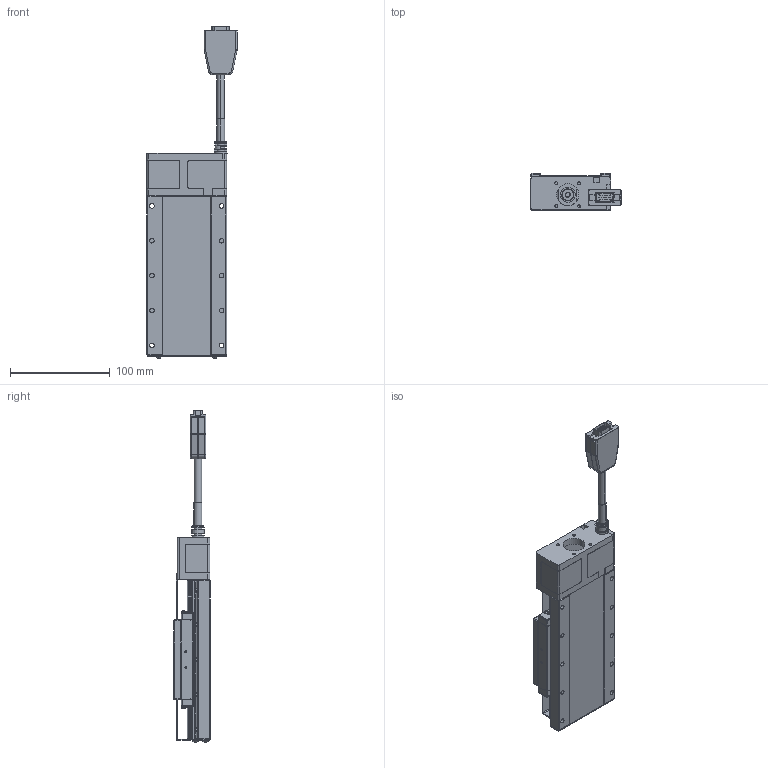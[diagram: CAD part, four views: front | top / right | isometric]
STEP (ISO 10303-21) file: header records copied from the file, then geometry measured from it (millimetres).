
FILE_DESCRIPTION (( 'STEP AP203' ), '1' );
FILE_NAME ('CXC8050-S2?N(µL°¨¹F).S', '2024-01-05T05:24:17', ( '' ), ( '' ), 'SwSTEP 2.0', 'SolidWorks 2019', '' );
FILE_SCHEMA (( 'CONFIG_CONTROL_DESIGN' ));
Products named in the file (9): CXC80-102; Group1^CXC8050-S2?N(28框無馬達)_defeature_GMT; SD03B006_SD03B006-SCM435(化鎳); CXC8050-S2?N(無馬達); CXC8050-S2OPAN-303; CXN80_GMT; SG02B005_SCM435(化鎳); Group2^CXC8050-S2?N(28框無馬達)_defeature_GMT; SC04B006_SCM435(化鎳)
Assembly tree (16 placements, depth 2):
  CXC8050-S2?N(無馬達)
    Group1^CXC8050-S2?N(28框無馬達)_defeature_GMT
    Group2^CXC8050-S2?N(28框無馬達)_defeature_GMT
    CXN80_GMT
    CXC8050-S2OPAN-303
    SD03B006_SD03B006-SCM435(化鎳)  x4
    CXC80-102  x2
    SC04B006_SCM435(化鎳)  x4
    SG02B005_SCM435(化鎳)  x2
Bounding box: 90.5 x 37 x 333.25 mm (x, y, z)
Volume: 82792.3 mm3; surface area: 153410.3 mm2
Topology: 33 solids, 36 shells, 4099 faces, 10334 edges, 6270 vertices
Faces by surface type: plane 1480, cylinder 1292, cone 651, torus 274, bspline 252, sphere 150
Entity records: 126419 total; most frequent: CARTESIAN_POINT 33439, DIRECTION 19918, ORIENTED_EDGE 19056, EDGE_CURVE 9528, AXIS2_PLACEMENT_3D 7569, VERTEX_POINT 5886, LINE 4780, VECTOR 4780
